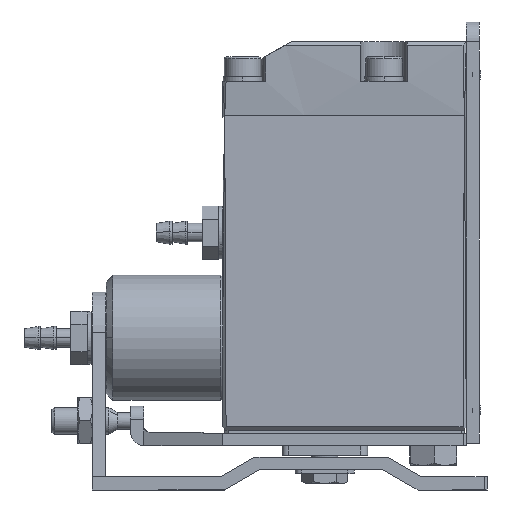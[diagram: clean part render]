
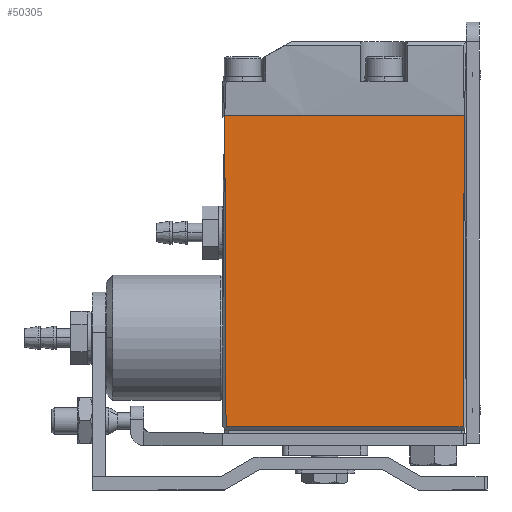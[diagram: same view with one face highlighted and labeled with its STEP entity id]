
A CAD part, left-side view. The second image highlights one B-rep face of the part: STEP entity #50305.
In plain terms, the highlighted planar face has unit normal (-1, 0, 0).
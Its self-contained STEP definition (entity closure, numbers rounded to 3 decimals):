
#2033 = VECTOR ( 'NONE', #14889, 1000. ) ;
#6129 = CARTESIAN_POINT ( 'NONE',  ( 0., 0.5, 0.5 ) ) ;
#9966 = AXIS2_PLACEMENT_3D ( 'NONE', #44003, #19211, #48143 ) ;
#11148 = LINE ( 'NONE', #40574, #52611 ) ;
#12676 = CARTESIAN_POINT ( 'NONE',  ( 0.255, 0.3, 47.8 ) ) ;
#13066 = LINE ( 'NONE', #39761, #2033 ) ;
#14826 = PLANE ( 'NONE',  #9966 ) ;
#14889 = DIRECTION ( 'NONE',  ( 0., 1., 0. ) ) ;
#16157 = VECTOR ( 'NONE', #48681, 1000. ) ;
#16885 = VERTEX_POINT ( 'NONE', #12676 ) ;
#18570 = EDGE_CURVE ( 'NONE', #16885, #34568, #13066, .T. ) ;
#19211 = DIRECTION ( 'NONE',  ( -1., 0., 0. ) ) ;
#19913 = DIRECTION ( 'NONE',  ( 0., 0., -1. ) ) ;
#23910 = CARTESIAN_POINT ( 'NONE',  ( 0., 0.5, 24. ) ) ;
#26795 = ORIENTED_EDGE ( 'NONE', *, *, #27842, .T. ) ;
#27842 = EDGE_CURVE ( 'NONE', #34568, #41737, #11148, .T. ) ;
#28477 = LINE ( 'NONE', #23910, #16157 ) ;
#29004 = CARTESIAN_POINT ( 'NONE',  ( 0., 18.5, 0.5 ) ) ;
#30069 = FACE_OUTER_BOUND ( 'NONE', #48062, .T. ) ;
#30591 = VECTOR ( 'NONE', #33211, 1000. ) ;
#33211 = DIRECTION ( 'NONE',  ( 0., 1., 0. ) ) ;
#34507 = CARTESIAN_POINT ( 'NONE',  ( 0., 36.5, 0.5 ) ) ;
#34568 = VERTEX_POINT ( 'NONE', #44658 ) ;
#38571 = ORIENTED_EDGE ( 'NONE', *, *, #18570, .T. ) ;
#39761 = CARTESIAN_POINT ( 'NONE',  ( 0., 18.5, 47.5 ) ) ;
#39965 = ORIENTED_EDGE ( 'NONE', *, *, #51764, .T. ) ;
#40574 = CARTESIAN_POINT ( 'NONE',  ( 0., 36.5, 24. ) ) ;
#41625 = LINE ( 'NONE', #29004, #30591 ) ;
#41737 = VERTEX_POINT ( 'NONE', #34507 ) ;
#43711 = VERTEX_POINT ( 'NONE', #6129 ) ;
#44003 = CARTESIAN_POINT ( 'NONE',  ( 0., -3.1, -4.2 ) ) ;
#44658 = CARTESIAN_POINT ( 'NONE',  ( 0.255, 36.7, 47.8 ) ) ;
#47532 = ORIENTED_EDGE ( 'NONE', *, *, #51021, .F. ) ;
#48062 = EDGE_LOOP ( 'NONE', ( #39965, #38571, #26795, #47532 ) ) ;
#48143 = DIRECTION ( 'NONE',  ( 0., 0., 1. ) ) ;
#48681 = DIRECTION ( 'NONE',  ( 0., 0., 1. ) ) ;
#50305 = ADVANCED_FACE ( 'NONE', ( #30069 ), #14826, .T. ) ;
#51021 = EDGE_CURVE ( 'NONE', #43711, #41737, #41625, .T. ) ;
#51764 = EDGE_CURVE ( 'NONE', #43711, #16885, #28477, .T. ) ;
#52611 = VECTOR ( 'NONE', #19913, 1000. ) ;
